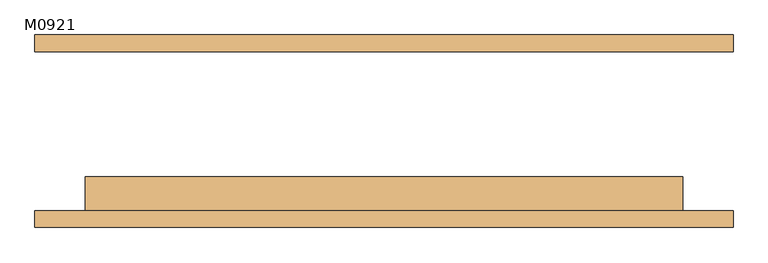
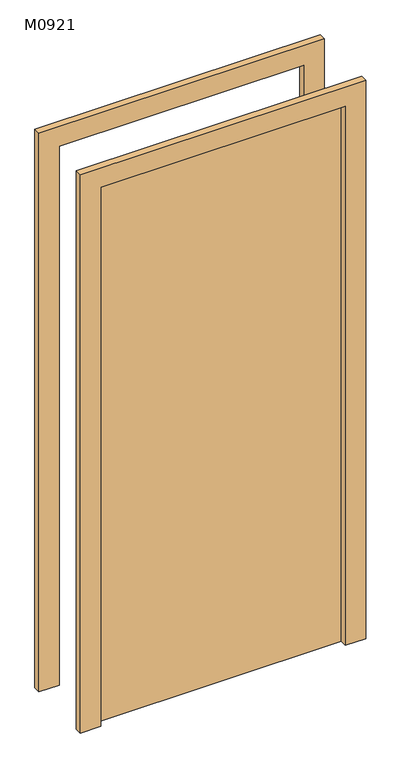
"""IFC4 building model written with IfcOpenShell, lengths in millimetres: door geometry, 单扇 - 与墙齐 : M0921."""

from ifc_helpers import new_model, si_unit, frame, origin, origin_with_axes, place, context, project, spatial, polyline, outline, extrude, source, transform, mapped, element, save


def m0921_198a37c4(model_context):
    return source(origin(), model_context, "Body", "SweptSolid", [
        extrude(outline(polyline([(2176.0, -526.0), (0.0, -526.0), (0.0, -450.0), (2100.0, -450.0), (2100.0, 450.0), (0.0, 450.0), (0.0, 526.0), (2176.0, 526.0), (2176.0, -526.0)])), frame((0.0, -145.0, 0.0), z_axis=(0.0, 1.0, 0.0), x_axis=(0.0, 0.0, 1.0)), (0.0, 0.0, 1.0), 25.0),
        extrude(outline(polyline([(2176.0, 526.0), (2176.0, -526.0), (0.0, -526.0), (0.0, -450.0), (2100.0, -450.0), (2100.0, 450.0), (0.0, 450.0), (0.0, 526.0), (2176.0, 526.0)])), frame((0.0, 120.0, 0.0), z_axis=(0.0, 1.0, 0.0), x_axis=(0.0, 0.0, 1.0)), (0.0, 0.0, 1.0), 25.0),
        extrude(outline(polyline([(450.0, -69.0), (450.0, -120.0), (-450.0, -120.0), (-450.0, -69.0), (450.0, -69.0)])), origin_with_axes(), (0.0, 0.0, 1.0), 2100.0),
    ])


if __name__ == "__main__":
    model = new_model("IFC4")
    model_context = context("Model", 3, world=origin())
    ifc_project = project(units=[si_unit("LENGTHUNIT", "METRE", prefix="MILLI")], contexts=[model_context])
    site = spatial("IfcSite", under=ifc_project)
    building = spatial("IfcBuilding", under=site)
    placement = place(None, origin())
    m0921_shape = m0921_198a37c4(model_context)
    element("IfcDoor", 1, ObjectType="单扇 - 与墙齐 : M0921", at=placement, inside=building, context=model_context, shape_type="MappedRepresentation", body=[
        mapped(m0921_shape, transform((0.0, 0.0, 0.0), x_axis=(1.0, 0.0, 0.0), y_axis=(0.0, 1.0, 0.0), z_axis=(0.0, 0.0, 1.0))),
    ])
    save(model, "model.ifc")
